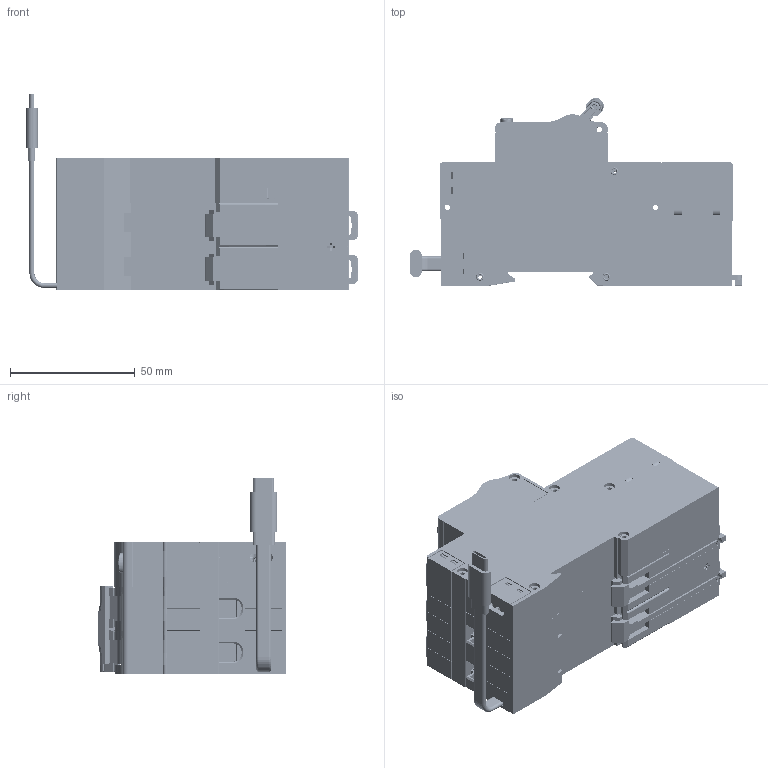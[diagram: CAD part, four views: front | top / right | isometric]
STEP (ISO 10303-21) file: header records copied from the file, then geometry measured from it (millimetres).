
FILE_DESCRIPTION (( 'STEP AP214' ), '1' );
FILE_NAME ('NDB5EL-80 2P.step', '2023-12-13T05:35:52', ( '' ), ( '' ), 'SwSTEP 2.0', 'SolidWorks 2018', '' );
FILE_SCHEMA (( 'AUTOMOTIVE_DESIGN' ));
Length unit declared in the file: millimetre
Products named in the file (1): NDB5EL-80 2P
Bounding box: 133.17 x 75.39 x 79.01 mm (x, y, z)
Volume: 130716.9 mm3; surface area: 196774.6 mm2
Topology: 56 solids, 60 shells, 10818 faces, 30143 edges, 19803 vertices
Faces by surface type: plane 7085, cylinder 2275, bspline 630, cone 621, torus 207
Entity records: 639963 total; most frequent: CARTESIAN_POINT 247744, ORIENTED_EDGE 60282, DIRECTION 51533, EDGE_CURVE 30141, LINE 21425, VECTOR 21425, VERTEX_POINT 19803, AXIS2_PLACEMENT_3D 15054
